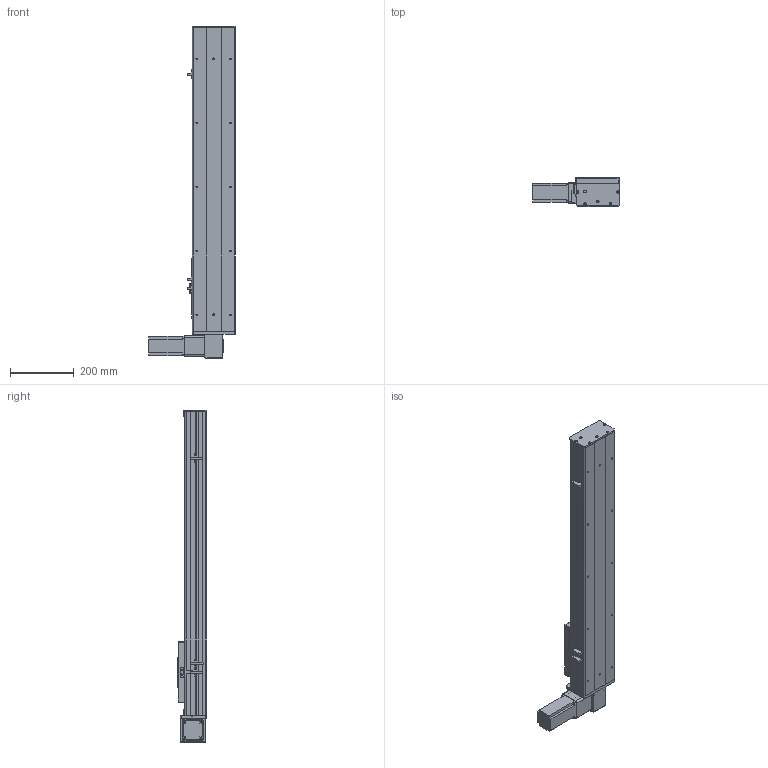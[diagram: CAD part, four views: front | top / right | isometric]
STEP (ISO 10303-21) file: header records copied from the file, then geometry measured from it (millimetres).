
FILE_DESCRIPTION (( 'STEP AP203' ), '1' );
FILE_NAME ('Y135CB-D90-S650-BD-P400W.STEP', '2020-02-19T03:00:09', ( '微软用户' ), ( '微软中国' ), 'SwSTEP 2.0', 'SolidWorks 2017', '' );
FILE_SCHEMA (( 'CONFIG_CONTROL_DESIGN' ));
Length unit declared in the file: millimetre
Products named in the file (16): san松下电机400不带刹车----; 5C--俋欶; Y100-135俋离換覜ん--; 5CB --掛极耜裔啣-; C-雄赽釱--; C-詩湍揤踡え-陔; Y10B--々湍喘謫眊--666; 135CB--詩湍-CE; 0B-薊粣ん眊; Y135CB-耜裔; Y135CB-D90-S650-BD-P400W; 135CB---遴掛极.-; 35CB---喘謫眊楊擘啣; 0B-埴倛裔啣; 0B-源倛裔啣; Y135C-陔俋离換覜結え-
Assembly tree (19 placements, depth 2):
  Y135CB-D90-S650-BD-P400W
    Y135CB-耜裔
    135CB---遴掛极.-
    35CB---喘謫眊楊擘啣
    0B-埴倛裔啣
    0B-源倛裔啣
    san松下电机400不带刹车----
    5CB --掛极耜裔啣-  x2
    C-詩湍揤踡え-陔  x2
    135CB--詩湍-CE
    Y100-135俋离換覜ん--  x3
    Y135C-陔俋离換覜結え-
    5C--俋欶
    C-雄赽釱--
    Y10B--々湍喘謫眊--666
    0B-薊粣ん眊
Bounding box: 272 x 91 x 1038 mm (x, y, z)
Volume: 3477930.4 mm3; surface area: 1307588.7 mm2
Topology: 19 solids, 19 shells, 847 faces, 2230 edges, 1476 vertices
Faces by surface type: cylinder 416, plane 415, cone 16
Entity records: 25602 total; most frequent: DIRECTION 4266, CARTESIAN_POINT 4159, ORIENTED_EDGE 3936, EDGE_CURVE 1968, AXIS2_PLACEMENT_3D 1559, VERTEX_POINT 1304, VECTOR 1148, LINE 1148
